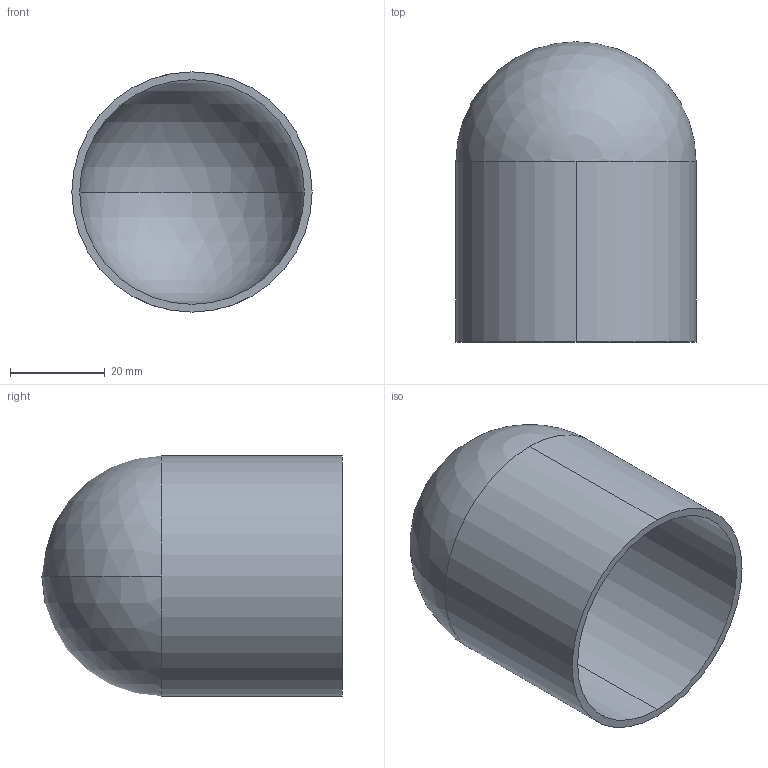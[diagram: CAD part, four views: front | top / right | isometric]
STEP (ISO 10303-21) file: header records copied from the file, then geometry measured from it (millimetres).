
FILE_DESCRIPTION (( 'STEP AP214' ), '1' );
FILE_NAME ('TE16W6L2.0-...STEP', '2016-06-01T13:58:29', ( 'eran' ), ( '' ), 'SwSTEP 2.0', 'SolidWorks 2016', '' );
FILE_SCHEMA (( 'AUTOMOTIVE_DESIGN' ));
Length unit declared in the file: millimetre
Products named in the file (1): TE16W6L2.0-..
Bounding box: 50.8 x 63.5 x 50.8 mm (x, y, z)
Volume: 15970.4 mm3; surface area: 19618.5 mm2
Topology: 1 solids, 1 shells, 9 faces, 24 edges, 14 vertices
Faces by surface type: cylinder 4, sphere 4, plane 1
Entity records: 300 total; most frequent: DIRECTION 56, CARTESIAN_POINT 44, ORIENTED_EDGE 40, AXIS2_PLACEMENT_3D 26, EDGE_CURVE 20, CIRCLE 16, VERTEX_POINT 14, EDGE_LOOP 10
